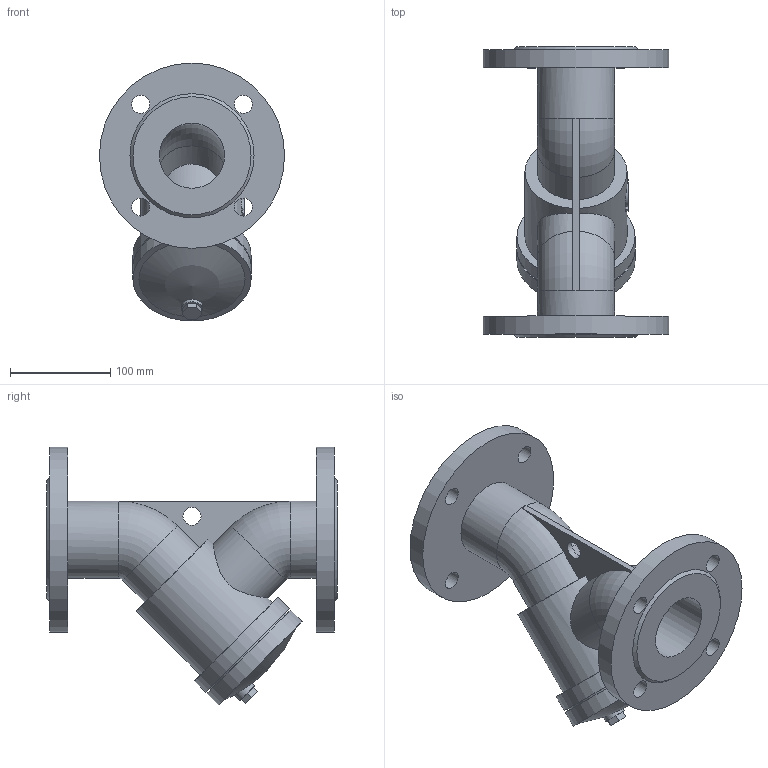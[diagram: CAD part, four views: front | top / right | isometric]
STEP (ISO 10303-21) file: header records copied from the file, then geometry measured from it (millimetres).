
FILE_DESCRIPTION(('STEP AP203'), '1');
FILE_NAME('Ôèëüòð ñåò÷àòûé ôëàíöåâûé 021Y DN65 PN10_PN16', '', ('UNSPECIFIED'), ('UNSPECIFIED'), 'ASCON STEP Converter 1.6', 'ASCON Math Kernel', '');
FILE_SCHEMA(('CONFIG_CONTROL_DESIGN'));
Length unit declared in the file: millimetre
Bounding box: 185 x 290 x 257.5 mm (x, y, z)
Volume: 2313452.3 mm3; surface area: 290842.1 mm2
Topology: 1 solids, 1 shells, 76 faces, 170 edges, 109 vertices
Faces by surface type: plane 37, cylinder 32, torus 4, cone 2, sphere 1
Full cylindrical faces by diameter (mm): 18 x9, 21 x1, 65 x4, 77 x2, 102 x1, 108 x1, 118 x2, 185 x2
Entity records: 3799 total; most frequent: CARTESIAN_POINT 1499, DIRECTION 351, ORIENTED_EDGE 282, AXIS2_PLACEMENT_3D 146, EDGE_CURVE 141, EDGE_LOOP 135, VERTEX_POINT 108, FACE_BOUND 86
